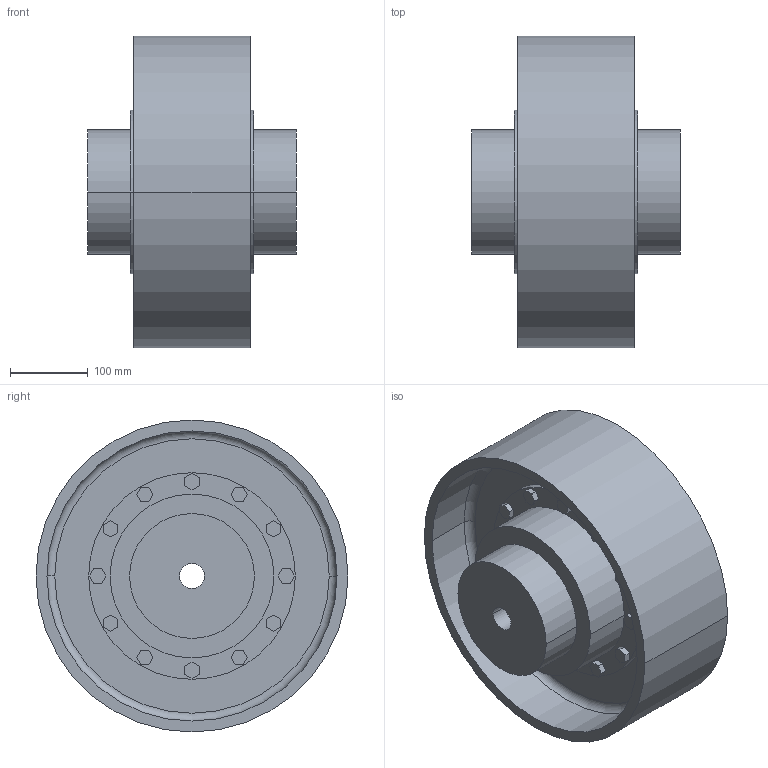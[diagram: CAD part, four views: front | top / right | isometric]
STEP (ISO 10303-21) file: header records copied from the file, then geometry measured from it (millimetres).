
FILE_DESCRIPTION((''),'2;1');
FILE_NAME('A19109500-0_ASM','2018-11-12T',('AB_Roschiwal'),('RENK AG'),'PRO/ENGINEER BY PARAMETRIC TECHNOLOGY CORPORATION, 2015440','PRO/ENGINEER BY PARAMETRIC TECHNOLOGY CORPORATION, 2015440','');
FILE_SCHEMA(('CONFIG_CONTROL_DESIGN'));
Length unit declared in the file: millimetre
Products named in the file (4): LBKD100_GEHAEUSE; LBKD100_NABE; LBKD100_BREMSSCHEIBE; A19109500-0_ASM
Assembly tree (4 placements, depth 2):
  A19109500-0_ASM
    LBKD100_GEHAEUSE
    LBKD100_NABE  x2
    LBKD100_BREMSSCHEIBE
Bounding box: 268 x 400 x 400 mm (x, y, z)
Volume: 10819474.3 mm3; surface area: 1146667.2 mm2
Topology: 4 solids, 4 shells, 292 faces, 704 edges, 468 vertices
Faces by surface type: plane 200, cylinder 88, torus 4
Entity records: 8356 total; most frequent: DIRECTION 1424, CARTESIAN_POINT 1420, ORIENTED_EDGE 1360, EDGE_CURVE 680, VECTOR 512, LINE 512, AXIS2_PLACEMENT_3D 456, VERTEX_POINT 452
